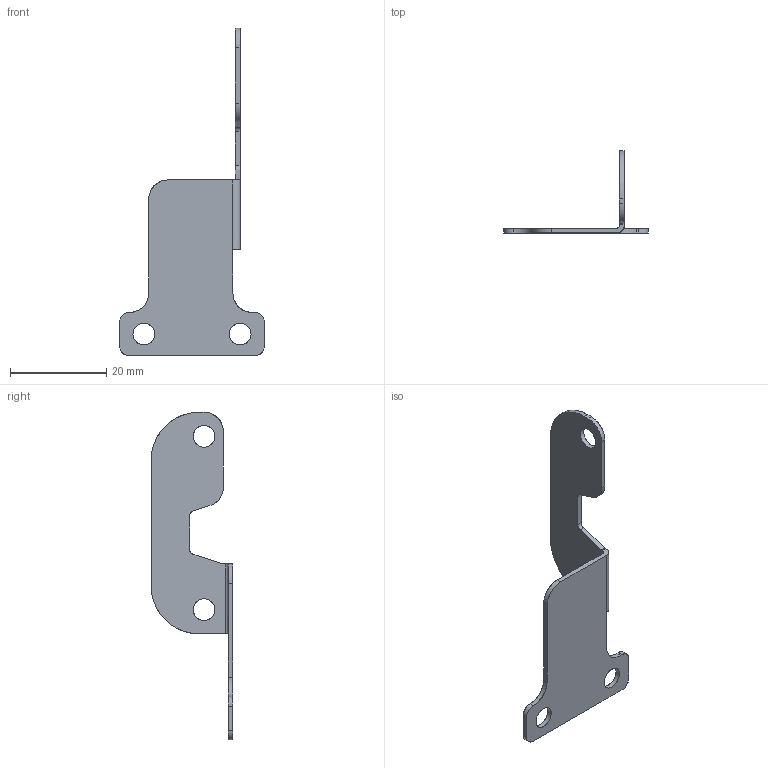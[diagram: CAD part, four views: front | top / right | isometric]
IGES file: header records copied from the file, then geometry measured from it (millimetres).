
Start section: C
Global section: file name: 11111164.igs; native system:  By UGS Corp.; preprocessor: XPlus GENERIC/IGES 3.0; author: Author; organization: Title; date: 20140725.090123; units: millimetre
Bounding box: 30 x 17 x 68 mm (x, y, z)
Surface area: 2846.3 mm2 (no closed solid volume)
Topology: 0 solids, 0 shells, 38 faces, 228 edges, 228 vertices
Faces by surface type: bspline 38
